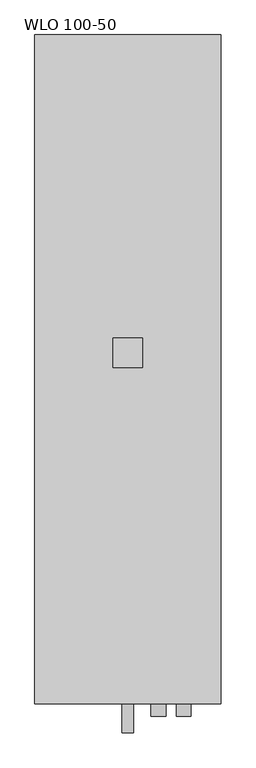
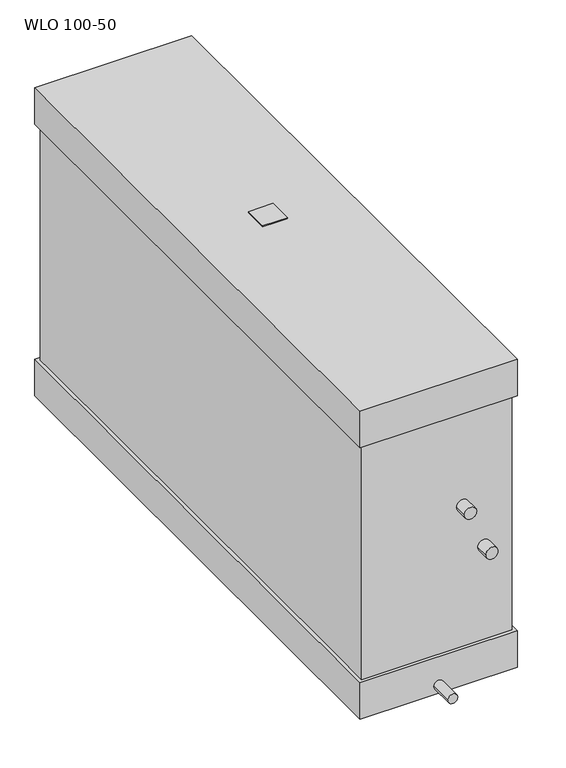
"""IFC4 building model written with IfcOpenShell, lengths in millimetres: proxy geometry, KORF_Воздухоохладитель_Водяной_WLO_Левый : WLO 100-50."""

import ifcopenshell
import ifcopenshell.guid

model = None  # the IFC model being written
_history = None  # IfcOwnerHistory: only IFC2X3 demands one
_inside = {}  # id of a spatial element -> (the spatial element, [elements in it])
_under = {}  # id of a project, library or spatial element -> (it, [spatial elements below it])
_declared = {}  # id of a project -> (the project, [libraries it declares])
_typed = {}  # id of a type object -> (the type object, [elements of that type])
_made_of = {}  # id of a material, layer set ... -> (it, [elements and type objects made of it])


def new_model(schema):
    """Start an empty IFC model of exactly this schema.

    Asked for "IFC4X3", IfcOpenShell would pick the latest addendum, in which some entities
    have other attributes; the version numbers below select the first issue.
    IFC2X3 requires an IfcOwnerHistory on every rooted entity: one is made here for all.
    """
    global model, _history
    if schema == "IFC4X3":
        model = ifcopenshell.file(schema_version=(4, 3, 0, 0))
    else:
        model = ifcopenshell.file(schema=schema)
    _inside.clear()
    _under.clear()
    _declared.clear()
    _typed.clear()
    _made_of.clear()
    _history = None
    if model.schema == "IFC2X3":
        org = make("IfcOrganization", Name="unknown")
        user = make(
            "IfcPersonAndOrganization",
            ThePerson=make("IfcPerson", FamilyName="unknown"),
            TheOrganization=org,
        )
        app = make(
            "IfcApplication",
            ApplicationDeveloper=org,
            Version="unknown",
            ApplicationFullName="unknown",
            ApplicationIdentifier="unknown",
        )
        _history = make(
            "IfcOwnerHistory",
            OwningUser=user,
            OwningApplication=app,
            ChangeAction="ADDED",
            CreationDate=0,
        )
    return model


def make(cls, **values):
    """One entity of the class cls with the attributes given. An attribute that is None is left unset."""
    return model.create_entity(
        cls, **{name: value for name, value in values.items() if value is not None}
    )


def rooted(cls, **values):
    """An entity with a GlobalId (a new one), such as an element, a storey or a relation."""
    return make(cls, GlobalId=ifcopenshell.guid.new(), OwnerHistory=_history, **values)


def si_unit(unit_type, name, prefix=None):
    """IfcSIUnit, for example si_unit("LENGTHUNIT", "METRE", prefix="MILLI")."""
    return make("IfcSIUnit", UnitType=unit_type, Prefix=prefix, Name=name)


def assignment(units):
    """IfcUnitAssignment: the units of a project."""
    return None if units is None else make("IfcUnitAssignment", Units=units)


def point(xyz):
    """IfcCartesianPoint."""
    return None if xyz is None else make("IfcCartesianPoint", Coordinates=xyz)


def direction(xyz):
    """IfcDirection."""
    return None if xyz is None else make("IfcDirection", DirectionRatios=xyz)


def frame(location, z_axis=None, x_axis=None):
    """IfcAxis2Placement3D, a coordinate frame: its origin and axes. An axis left out is left unset."""
    return make(
        "IfcAxis2Placement3D",
        Location=point(location),
        Axis=direction(z_axis),
        RefDirection=direction(x_axis),
    )


def frame_2d(location, x_axis=None):
    """IfcAxis2Placement2D, a coordinate frame in the plane: its origin and x axis."""
    return make(
        "IfcAxis2Placement2D", Location=point(location), RefDirection=direction(x_axis)
    )


def origin():
    """The frame at (0, 0, 0) with its axes left unset."""
    return frame((0.0, 0.0, 0.0))


def place(relative_to, where):
    """IfcLocalPlacement: puts the frame where relative to a parent placement (None: the world)."""
    return make(
        "IfcLocalPlacement", PlacementRelTo=relative_to, RelativePlacement=where
    )


def context(
    kind, dimensions, precision=None, world=None, true_north=None, identifier=None
):
    """IfcGeometricRepresentationContext, for example the 3D "Model" context."""
    return make(
        "IfcGeometricRepresentationContext",
        ContextIdentifier=identifier,
        ContextType=kind,
        CoordinateSpaceDimension=dimensions,
        Precision=precision,
        WorldCoordinateSystem=world,
        TrueNorth=true_north,
    )


def project(units=None, contexts=None):
    """IfcProject with its units and contexts."""
    return rooted(
        "IfcProject",
        Name="project",
        RepresentationContexts=contexts,
        UnitsInContext=assignment(units),
    )


def spatial(cls, under=None, at=None, **own):
    """A site, building, storey or space (cls), placed at a placement, below another one or the project."""
    s = rooted(cls, ObjectPlacement=at, **own)
    if under is not None:
        _under.setdefault(under.id(), (under, []))[1].append(s)
    return s


def polyline(points):
    """IfcPolyline through the points."""
    return make("IfcPolyline", Points=[point(p) for p in points])


def circle_curve(where, radius):
    """IfcCircle in the frame where."""
    return make("IfcCircle", Position=where, Radius=radius)


def trimmed(basis, trim1, trim2, sense, master):
    """IfcTrimmedCurve: the piece of a basis curve between two trims."""
    return make(
        "IfcTrimmedCurve",
        BasisCurve=basis,
        Trim1=trim1,
        Trim2=trim2,
        SenseAgreement=sense,
        MasterRepresentation=master,
    )


def segment(curve, same_sense, transition):
    """IfcCompositeCurveSegment."""
    return make(
        "IfcCompositeCurveSegment",
        Transition=transition,
        SameSense=same_sense,
        ParentCurve=curve,
    )


def composite_curve(segments, self_intersect=None):
    """IfcCompositeCurve: segments joined end to end."""
    return make("IfcCompositeCurve", Segments=segments, SelfIntersect=self_intersect)


def outline(outer, holes=None, kind="AREA"):
    """IfcArbitraryClosedProfileDef: a profile drawn as a closed curve; with holes, ...WithVoids."""
    if holes is None:
        return make("IfcArbitraryClosedProfileDef", ProfileType=kind, OuterCurve=outer)
    return make(
        "IfcArbitraryProfileDefWithVoids",
        ProfileType=kind,
        OuterCurve=outer,
        InnerCurves=holes,
    )


def extrude(swept, where, along, depth):
    """IfcExtrudedAreaSolid: the profile swept, set in the frame where, extruded along a direction by depth."""
    return make(
        "IfcExtrudedAreaSolid",
        SweptArea=swept,
        Position=where,
        ExtrudedDirection=direction(along),
        Depth=depth,
    )


def faces_of(points, faces, orient=None, outer=None):
    """IfcFace entities. A face is a list of loops; a loop is a list of indices into points, from 0.

    orient and outer hold one flag for each loop. By default every Orientation is true, the
    first loop of a face is its IfcFaceOuterBound and the others are IfcFaceBound.
    """
    made = []
    for i, loops in enumerate(faces):
        bounds = []
        for j, loop in enumerate(loops):
            is_outer = j == 0 if outer is None else outer[i][j]
            bounds.append(
                make(
                    "IfcFaceOuterBound" if is_outer else "IfcFaceBound",
                    Bound=make("IfcPolyLoop", Polygon=[points[k] for k in loop]),
                    Orientation=True if orient is None else orient[i][j],
                )
            )
        made.append(make("IfcFace", Bounds=bounds))
    return made


def faceted_brep(points, faces, orient=None, outer=None, voids=None):
    """IfcFacetedBrep: a solid bounded by flat faces; with voids (closed shells), ...WithVoids."""
    shared = [point(p) for p in points]
    hull = make("IfcClosedShell", CfsFaces=faces_of(shared, faces, orient, outer))
    if voids is None:
        return make("IfcFacetedBrep", Outer=hull)
    return make(
        "IfcFacetedBrepWithVoids",
        Outer=hull,
        Voids=[
            make(cls, CfsFaces=faces_of(shared, fs, o, b)) for cls, fs, o, b in voids
        ],
    )


def shape(context_of_items, identifier, shape_type, items):
    """IfcShapeRepresentation: the items that make up one representation, for example the "Body"."""
    return make(
        "IfcShapeRepresentation",
        ContextOfItems=context_of_items,
        RepresentationIdentifier=identifier,
        RepresentationType=shape_type,
        Items=items,
    )


def source(mapping_origin, context_of_items, identifier, shape_type, items):
    """IfcRepresentationMap: a shape defined once, which mapped items show again and again."""
    return make(
        "IfcRepresentationMap",
        MappingOrigin=mapping_origin,
        MappedRepresentation=shape(context_of_items, identifier, shape_type, items),
    )


def transform(
    local_origin,
    x_axis=None,
    y_axis=None,
    z_axis=None,
    scale=None,
    scale2=None,
    scale3=None,
    uniform=True,
):
    """IfcCartesianTransformationOperator3D, or its non-uniform kind. x_axis, y_axis, z_axis: its Axis1, 2, 3."""
    if uniform:
        return make(
            "IfcCartesianTransformationOperator3D",
            Axis1=direction(x_axis),
            Axis2=direction(y_axis),
            LocalOrigin=point(local_origin),
            Scale=scale,
            Axis3=direction(z_axis),
        )
    return make(
        "IfcCartesianTransformationOperator3DnonUniform",
        Axis1=direction(x_axis),
        Axis2=direction(y_axis),
        LocalOrigin=point(local_origin),
        Scale=scale,
        Axis3=direction(z_axis),
        Scale2=scale2,
        Scale3=scale3,
    )


def mapped(mapping_source, mapping_target):
    """IfcMappedItem: shows the shape of a source again, moved by a transform."""
    return make(
        "IfcMappedItem", MappingSource=mapping_source, MappingTarget=mapping_target
    )


def made_of(thing, what):
    """Note that an element or type object is made of a material, layer set ...; save() writes the relation."""
    if what is not None:
        _made_of.setdefault(what.id(), (what, []))[1].append(thing)
    return thing


def element(
    cls,
    number,
    at=None,
    inside=None,
    cuts=None,
    type_object=None,
    material=None,
    context=None,
    identifier="Body",
    shape_type=None,
    held_by="IfcProductDefinitionShape",
    body=None,
    shapes=None,
    **own,
):
    """One element of the class cls, such as IfcWall. Its Tag is "e" and its number.

    at: its placement. inside: the storey or other place that contains it. cuts: it is an
    opening in that element (IfcRelVoidsElement). A single representation is given by context,
    identifier, shape_type and body (its items); several are given by shapes. held_by: the class
    of the entity that holds the representations. save() writes the other relations.
    """
    e = rooted(cls, Tag="e%d" % number, ObjectPlacement=at, **own)
    if body is not None:
        shapes = [shape(context, identifier, shape_type, body)]
    if shapes is not None:
        e.Representation = make(held_by, Representations=shapes)
    if inside is not None:
        _inside.setdefault(inside.id(), (inside, []))[1].append(e)
    if cuts is not None:
        rooted(
            "IfcRelVoidsElement", RelatingBuildingElement=cuts, RelatedOpeningElement=e
        )
    if type_object is not None:
        _typed.setdefault(type_object.id(), (type_object, []))[1].append(e)
    return made_of(e, material)


def aggregate(whole, parts):
    """IfcRelAggregates: a whole, such as a stair, and the parts it consists of."""
    return rooted("IfcRelAggregates", RelatingObject=whole, RelatedObjects=parts)


def save(model, path):
    """Write the relations noted so far, then the file.

    IfcRelAggregates (storeys below a building ...), IfcRelContainedInSpatialStructure (elements
    in a storey), IfcRelDefinesByType, IfcRelAssociatesMaterial and IfcRelDeclares: one each for
    every whole, place, type object, material and project.
    """
    for whole, parts in _under.values():
        aggregate(whole, parts)
    for where, things in _inside.values():
        rooted(
            "IfcRelContainedInSpatialStructure",
            RelatedElements=things,
            RelatingStructure=where,
        )
    for kind, things in _typed.values():
        rooted("IfcRelDefinesByType", RelatedObjects=things, RelatingType=kind)
    for what, things in _made_of.values():
        rooted("IfcRelAssociatesMaterial", RelatedObjects=things, RelatingMaterial=what)
    for by, libraries in _declared.values():
        rooted("IfcRelDeclares", RelatingContext=by, RelatedDefinitions=libraries)
    model.write(path)


def wlo_100_50_bef854ee(model_context):
    return source(origin(), model_context, "Body", "SolidModel", [
        extrude(outline(polyline([(133.0, -25.0), (133.0, 25.0), (183.0, 25.0), (183.0, -25.0), (133.0, -25.0)])), frame((0.0, 0.0, 327.5), z_axis=(0.0, 0.0, 1.0), x_axis=(1.0, 0.0, 0.0)), (0.0, 0.0, 1.0), 2.0),
        faceted_brep([(316.0, -595.5, 327.5), (316.0, -595.5, 250.0), (316.0, 539.5, 250.0), (316.0, 539.5, 327.5), (316.0, -595.5, -250.0), (316.0, -595.5, -327.5), (316.0, 539.5, -327.5), (316.0, 539.5, -250.0), (0.0, -595.5, 327.5), (0.0, 539.5, 327.5), (0.0, 539.5, 250.0), (0.0, -595.5, 250.0), (0.0, -595.5, -250.0), (0.0, 539.5, -250.0), (0.0, 539.5, -327.5), (0.0, -595.5, -327.5), (7.0, -588.5, 250.0), (309.0, -588.5, 250.0), (309.0, -500.0, 250.0), (309.0, 500.0, 250.0), (309.0, 532.5, 250.0), (7.0, 532.5, 250.0), (7.0, 500.0, 250.0), (7.0, -500.0, 250.0), (309.0, -588.5, -250.0), (7.0, -588.5, -250.0), (7.0, -500.0, -250.0), (7.0, 500.0, -250.0), (7.0, 532.5, -250.0), (309.0, 532.5, -250.0), (309.0, 500.0, -250.0), (309.0, -500.0, -250.0)], [[[0, 1, 2, 3]], [[4, 5, 6, 7]], [[8, 9, 10, 11]], [[12, 13, 14, 15]], [[1, 0, 8, 11]], [[2, 1, 11, 10], [16, 17, 18, 19, 20, 21, 22, 23]], [[3, 2, 10, 9]], [[0, 3, 9, 8]], [[5, 4, 12, 15]], [[6, 5, 15, 14]], [[7, 6, 14, 13]], [[4, 7, 13, 12], [24, 25, 26, 27, 28, 29, 30, 31]], [[17, 24, 31, 30, 29, 20, 19, 18]], [[21, 28, 27, 26, 25, 16, 23, 22]], [[24, 17, 16, 25]], [[20, 29, 28, 21]]]),
        extrude(outline(composite_curve([segment(trimmed(circle_curve(frame_2d((50.0, 210.0)), 12.5), [point((50.0, 197.5))], [point((50.0, 222.5))], False, "CARTESIAN"), True, "CONTINUOUS"), segment(trimmed(circle_curve(frame_2d((50.0, 210.0)), 12.5), [point((50.0, 222.5))], [point((50.0, 197.5))], False, "CARTESIAN"), True, "CONTINUOUS")], self_intersect=False)), frame((0.0, -616.5, 0.0), z_axis=(0.0, 1.0, 0.0), x_axis=(0.0, 0.0, 1.0)), (0.0, 0.0, 1.0), 28.0),
        extrude(outline(composite_curve([segment(trimmed(circle_curve(frame_2d((-50.0, 253.0)), 12.5), [point((-50.0, 240.5))], [point((-50.0, 265.5))], False, "CARTESIAN"), True, "CONTINUOUS"), segment(trimmed(circle_curve(frame_2d((-50.0, 253.0)), 12.5), [point((-50.0, 265.5))], [point((-50.0, 240.5))], False, "CARTESIAN"), True, "CONTINUOUS")], self_intersect=False)), frame((0.0, -616.5, 0.0), z_axis=(0.0, 1.0, 0.0), x_axis=(0.0, 0.0, 1.0)), (0.0, 0.0, 1.0), 28.0),
        extrude(outline(composite_curve([segment(trimmed(circle_curve(frame_2d((-309.5, 158.0)), 10.0), [point((-309.5, 148.0))], [point((-309.5, 168.0))], False, "CARTESIAN"), True, "CONTINUOUS"), segment(trimmed(circle_curve(frame_2d((-309.5, 158.0)), 10.0), [point((-309.5, 168.0))], [point((-309.5, 148.0))], False, "CARTESIAN"), True, "CONTINUOUS")], self_intersect=False)), frame((0.0, -644.5, 0.0), z_axis=(0.0, 1.0, 0.0), x_axis=(0.0, 0.0, 1.0)), (0.0, 0.0, 1.0), 49.0),
    ])


if __name__ == "__main__":
    model = new_model("IFC4")
    model_context = context("Model", 3, world=origin())
    ifc_project = project(units=[si_unit("LENGTHUNIT", "METRE", prefix="MILLI")], contexts=[model_context])
    site = spatial("IfcSite", under=ifc_project)
    building = spatial("IfcBuilding", under=site)
    placement = place(None, origin())
    wlo_100_50_shape = wlo_100_50_bef854ee(model_context)
    element("IfcBuildingElementProxy", 1, Name="KORF_Воздухоохладитель_Водяной_WLO_Левый : WLO 100-50", ObjectType="KORF_Воздухоохладитель_Водяной_WLO_Левый : WLO 100-50", at=placement, inside=building, context=model_context, shape_type="MappedRepresentation", body=[
        mapped(wlo_100_50_shape, transform((0.0, 0.0, 0.0), x_axis=(1.0, 0.0, 0.0), y_axis=(0.0, 1.0, 0.0), z_axis=(0.0, 0.0, 1.0))),
    ])
    save(model, "model.ifc")
